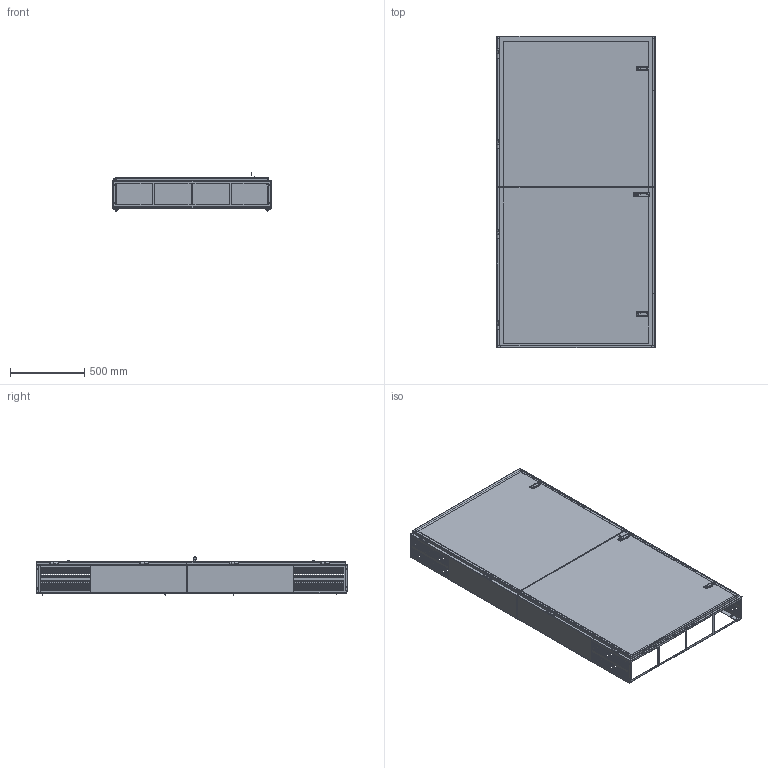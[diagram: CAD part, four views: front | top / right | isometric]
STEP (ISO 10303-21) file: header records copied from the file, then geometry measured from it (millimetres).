
FILE_DESCRIPTION (( 'STEP AP214' ), '1' );
FILE_NAME ('QSP3.STEP', '2016-07-28T13:49:35', ( 'BMC' ), ( 'Bard Manufacturing Co., Inc.' ), 'SwSTEP 2.0', 'SolidWorks 2016', '' );
FILE_SCHEMA (( 'AUTOMOTIVE_DESIGN' ));
Length unit declared in the file: inch
Products named in the file (44): 1012-128; 5021-1101_uncompressed; 1171-049d; 500-431; 106-238; 1171-049c; 100-431; 126-337; 1171-049b; 500-432; 1171-049a; 100-432; QSP3; 5021-1111_uncompressed; 500-433; 152-379; 5021-1112_uncompressed; 552-378; 100-433; 1012-048; 500-430; 1171-048, non locking door latch; 5021-1113_uncompressed; 1171-048f; 5400-005, male hinge; 1171-048e; 100-430; 1171-048d; 552-379; 1171-048c; 1171-049, locking door latch; 1171-048b; 1171-049j; 1171-048a; 1171-049i; 5400-005 female hinge; 1171-049h; 5021-1110_uncompressed; 1171-049g; 152-378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
Assembly tree (88 placements, depth 4):
  QSP3
    126-337
    506-238
      106-238
      5021-1101_uncompressed
    552-378
      152-378
      5021-1110_uncompressed
      5400-005 female hinge  x2
      1171-048, non locking door latch
        1171-048a
        1171-048b
        1171-048c
        1171-048d
        1171-048e
        1171-048f
      1012-048  x4
    552-379
      152-379
      5400-005 female hinge  x2
      1171-048, non locking door latch
        1171-048a
        1171-048b
        1171-048c
        1171-048d
        1171-048e
        1171-048f
      5021-1111_uncompressed
      1171-049, locking door latch
        1171-049a
        1171-049b
        1171-049c
        1171-049d
        1171-049e
        1171-049f
        1171-049g
        1171-049h
        1171-049i
        1171-049j
      1012-048  x4
    500-430
      100-430
      5400-005, male hinge  x2
      5021-1113_uncompressed
      1012-048  x4
    500-433
      100-433
      5021-1112_uncompressed
    500-432
      100-432
      5021-1113_uncompressed
    500-431
      100-431
      5400-005, male hinge  x2
      5021-1112_uncompressed
      1012-048  x4
    1012-128  x21
    1012-085  x2
Bounding box: 1069.76 x 2095.5 x 257.46 mm (x, y, z)
Surface area: 13401571.4 mm2 (no closed solid volume)
Topology: 0 solids, 84 shells, 5180 faces, 12679 edges, 7751 vertices
Faces by surface type: plane 2305, cone 2110, cylinder 680, bspline 74, torus 6, sphere 5
Entity records: 85368 total; most frequent: CARTESIAN_POINT 16342, DIRECTION 13875, ORIENTED_EDGE 13806, EDGE_CURVE 6903, LINE 5275, VECTOR 5275, AXIS2_PLACEMENT_3D 4300, VERTEX_POINT 4290
